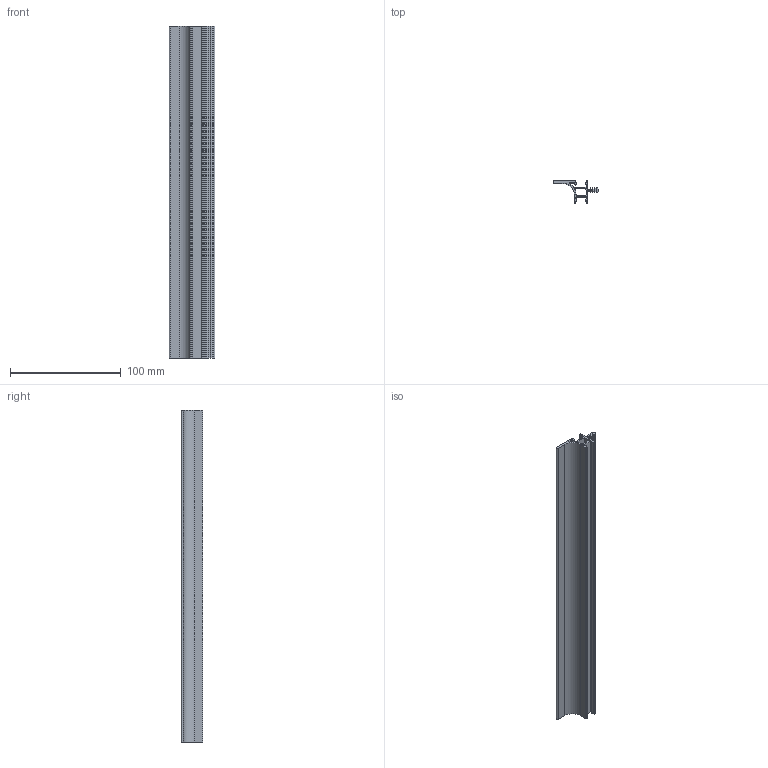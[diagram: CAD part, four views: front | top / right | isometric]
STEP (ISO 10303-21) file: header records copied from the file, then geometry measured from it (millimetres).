
FILE_DESCRIPTION (( 'STEP AP203' ), '1' );
FILE_NAME ('HandleLine_24.STEP', '2024-12-02T07:09:59', ( '' ), ( '' ), 'SwSTEP 2.0', 'SolidWorks 2023', '' );
FILE_SCHEMA (( 'CONFIG_CONTROL_DESIGN' ));
Length unit declared in the file: millimetre
Products named in the file (1): HandleLine_24
Bounding box: 41.5 x 19.4 x 300 mm (x, y, z)
Volume: 47629.4 mm3; surface area: 58028.9 mm2
Topology: 1 solids, 1 shells, 97 faces, 285 edges, 190 vertices
Faces by surface type: cylinder 55, plane 42
Entity records: 3350 total; most frequent: DIRECTION 591, CARTESIAN_POINT 573, ORIENTED_EDGE 570, EDGE_CURVE 285, AXIS2_PLACEMENT_3D 208, VERTEX_POINT 190, LINE 175, VECTOR 175
